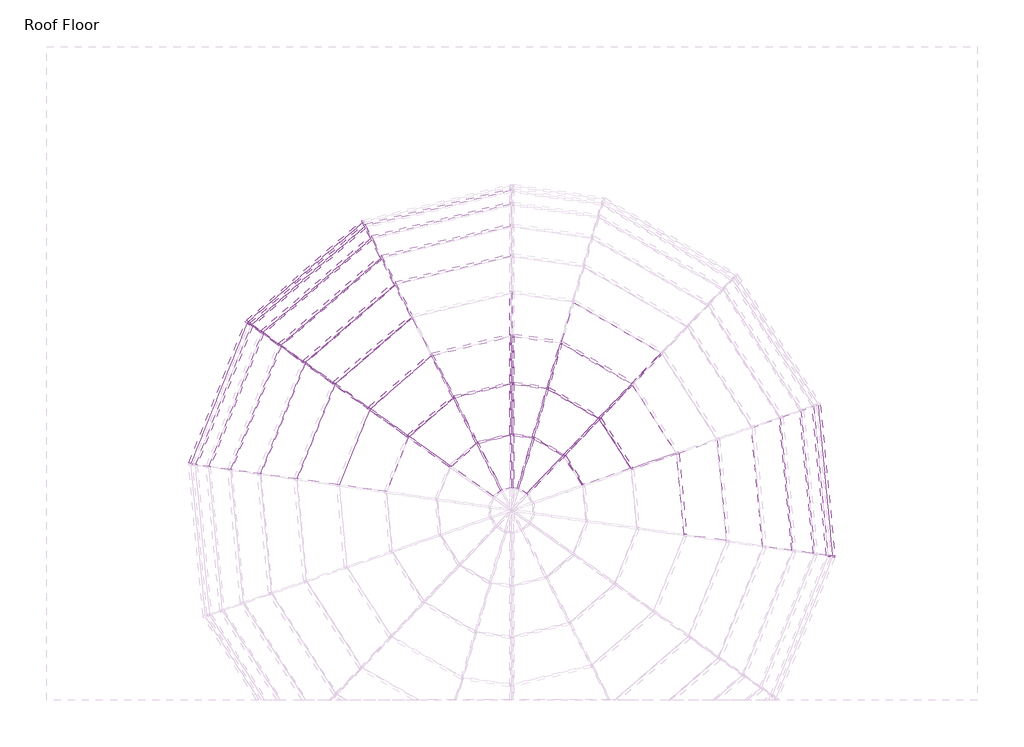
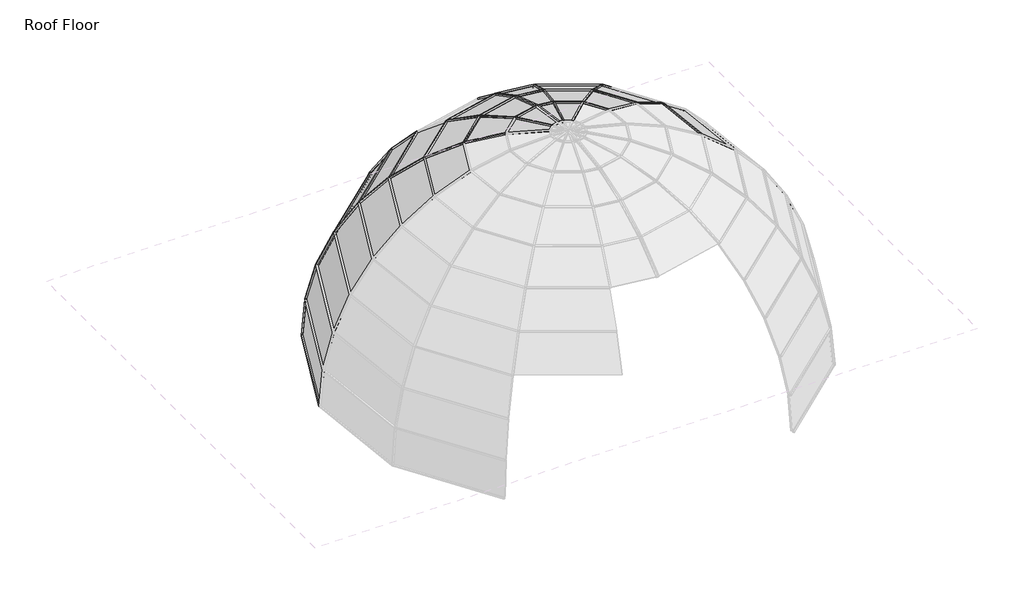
# One storey, part 4 of 5: 57 members, 33 plates.
"""IFC4 building model written with IfcOpenShell, lengths in millimetres."""

from ifc_helpers import new_model, si_unit, origin, place, context, project, spatial, transform, mapped, element, save
from components import member_e5884c93, member_68b33a8a, member_1644e863, member_ecfbb555, member_824fc51d, member_3542fcca, member_54749c12, member_24c90e2e, member_355504b0, member_dee8aa16, member_df6d12cb, member_6952dcc5, member_4046197d, member_16c772f1, member_ac46e98e, member_b6a9e346, member_16816f3b, member_d3833f24, member_95e271e4, member_7f7bd10d, member_27f65fe7, member_b6c57be0, member_ac816b31, member_27e61d6b, member_8ccf5568, member_a4aff84e, member_5ef621be, member_85a1b8f2, system_panel_glazed_e103372f, system_panel_glazed_c16507b5, system_panel_glazed_afa622ac, system_panel_glazed_079f8796, system_panel_glazed_c9cd471f, system_panel_glazed_44273b71, system_panel_glazed_99547904, system_panel_glazed_224b1453, system_panel_glazed_86a28251, system_panel_glazed_afbe5211, system_panel_glazed_17e44092, system_panel_glazed_03693a4c, system_panel_glazed_4e9ddf93, system_panel_glazed_1d538f7b, system_panel_glazed_1c764c03

model = new_model("IFC4")

# Units and contexts
model_context = context("Model", 3, world=origin())
ifc_project = project(units=[si_unit("LENGTHUNIT", "METRE", prefix="MILLI")], contexts=[model_context])

# Site, building, storey
site = spatial("IfcSite", under=ifc_project)
building = spatial("IfcBuilding", under=site)
storey = spatial("IfcBuildingStorey", under=building, Name="Roof Floor", Elevation=15240.0)

# Members
placement = place(None, origin())
member_shape = member_e5884c93(model_context)
element("IfcMember", 1, ObjectType="Rectangular Mullion : 1\" Square", at=placement, inside=storey, context=model_context, shape_type="MappedRepresentation", body=[
    mapped(member_shape, transform((-5386.0704997, 1405.930168, 21117.9670279), x_axis=(0.41239046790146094, -0.47609224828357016, 0.7767047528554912), y_axis=(-0.508530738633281, 0.5870832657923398, 0.6298648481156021), z_axis=(-0.7558641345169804, -0.6547285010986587, 0.0))),
])
member_2_shape = member_68b33a8a(model_context)
element("IfcMember", 2, ObjectType="Rectangular Mullion : 1\" Square", at=placement, inside=storey, context=model_context, shape_type="MappedRepresentation", body=[
    mapped(member_2_shape, transform((-4103.8308858, 2508.907042, 21117.9670279), x_axis=(0.1484605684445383, -0.6121186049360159, 0.7767047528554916), y_axis=(-0.18307106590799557, 0.7548213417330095, 0.6298648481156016), z_axis=(-0.9718253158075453, -0.2357022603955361, 0.0))),
])
member_3_shape = member_1644e863(model_context)
element("IfcMember", 3, ObjectType="Rectangular Mullion : 1\" Square", at=placement, inside=storey, context=model_context, shape_type="MappedRepresentation", body=[
    mapped(member_3_shape, transform((-5728.2554226, 1649.7192684, 20482.2624164), x_axis=(0.3211685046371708, -0.3707792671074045, 0.8714204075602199), y_axis=(-0.5705437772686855, 0.6586754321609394, 0.49053692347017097), z_axis=(-0.7558641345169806, -0.6547285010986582, 0.0))),
])
member_4_shape = member_ecfbb555(model_context)
element("IfcMember", 4, ObjectType="Rectangular Mullion : 1\" Square", at=placement, inside=storey, context=model_context, shape_type="MappedRepresentation", body=[
    mapped(member_4_shape, transform((-5979.6973099, 1828.8586383, 19785.6060711), x_axis=(0.2199875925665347, -0.253968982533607, 0.9418626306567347), y_axis=(-0.616664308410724, 0.7119201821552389, 0.33599819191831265), z_axis=(-0.7558641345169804, -0.6547285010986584, 0.0))),
])
member_5_shape = member_824fc51d(model_context)
element("IfcMember", 5, ObjectType="Rectangular Mullion : 1\" Square", at=placement, inside=storey, context=model_context, shape_type="MappedRepresentation", body=[
    mapped(member_5_shape, transform((-4437.7459666, 3156.7974646, 19785.6060711), x_axis=(0.07919553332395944, -0.3265315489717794, 0.9418626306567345), y_axis=(-0.2219991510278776, 0.9153259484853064, 0.33599819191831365), z_axis=(-0.9718253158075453, -0.23570226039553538, 0.0))),
])
member_6_shape = member_3542fcca(model_context)
element("IfcMember", 6, ObjectType="Rectangular Mullion : 1\" Square", at=placement, inside=storey, context=model_context, shape_type="MappedRepresentation", body=[
    mapped(member_6_shape, transform((-6133.4116648, 1938.3721843, 19047.3495572), x_axis=(0.11180378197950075, -0.12907406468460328, 0.9853120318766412), y_axis=(-0.6451118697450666, 0.744762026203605, 0.17076357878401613), z_axis=(-0.7558641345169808, -0.6547285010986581, 0.0))),
])
member_7_shape = member_54749c12(model_context)
element("IfcMember", 7, ObjectType="Rectangular Mullion : 1\" Square", at=placement, inside=storey, context=model_context, shape_type="MappedRepresentation", body=[
    mapped(member_7_shape, transform((-4296.309905, 2882.3711957, 20482.2624164), x_axis=(0.11562066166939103, -0.47671620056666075, 0.8714204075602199), y_axis=(-0.2053957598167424, 0.8468684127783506, 0.49053692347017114), z_axis=(-0.9718253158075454, -0.23570226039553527, 0.0))),
])
member_8_shape = member_24c90e2e(model_context)
element("IfcMember", 8, ObjectType="Rectangular Mullion : 1\" Square", at=placement, inside=storey, context=model_context, shape_type="MappedRepresentation", body=[
    mapped(member_8_shape, transform((-4524.2102912, 3324.5628967, 19047.3495572), x_axis=(0.04024936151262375, -0.1659523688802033, 0.9853120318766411), y_axis=(-0.23224027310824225, 0.9575511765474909, 0.17076357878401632), z_axis=(-0.9718253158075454, -0.23570226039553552, 0.0))),
])
member_9_shape = member_355504b0(model_context)
element("IfcMember", 9, ObjectType="Rectangular Mullion : 1\" Square", at=placement, inside=storey, context=model_context, shape_type="MappedRepresentation", body=[
    mapped(member_9_shape, transform((-2445.9654175, 379.0161469, 22733.3596998), x_axis=(-0.1387867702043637, -0.9628912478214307, 0.2314706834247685), y_axis=(0.033021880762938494, 0.22910310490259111, 0.9728418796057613), z_axis=(-0.9897715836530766, 0.1426611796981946, 0.0))),
])
member_10_shape = member_dee8aa16(model_context)
element("IfcMember", 10, ObjectType="Rectangular Mullion : 1\" Square", at=placement, inside=storey, context=model_context, shape_type="MappedRepresentation", body=[
    mapped(member_10_shape, transform((-1726.3579262, 76.2970849, 22733.3596998), x_axis=(-0.8194718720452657, -0.5260350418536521, 0.2274928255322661), y_axis=(0.19144367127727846, 0.1228914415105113, 0.9737797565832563), z_axis=(-0.5401991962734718, 0.8415371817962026, 0.0))),
])
element("IfcMember", 11, ObjectType="Rectangular Mullion : 1\" Square", at=placement, inside=storey, context=model_context, shape_type="MappedRepresentation", body=[
    mapped(member_10_shape, transform((-2158.3270023, 332.7848877, 22733.3596998), x_axis=(-0.48743077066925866, -0.8430054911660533, 0.2274928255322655), y_axis=(0.11387277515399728, 0.19694155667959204, 0.9737797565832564), z_axis=(-0.8657044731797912, 0.500555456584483, 0.0))),
])
member_11_shape = member_df6d12cb(model_context)
element("IfcMember", 12, ObjectType="Rectangular Mullion : 1\" Square", at=placement, inside=storey, context=model_context, shape_type="MappedRepresentation", body=[
    mapped(member_11_shape, transform((-2948.3253368, 266.8969575, 22733.3596998), x_axis=(0.22952208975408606, -0.9463438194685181, 0.22749282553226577), y_axis=(-0.05362057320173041, 0.22108328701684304, 0.9737797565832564), z_axis=(-0.9718253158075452, -0.2357022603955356, 0.0))),
])
member_12_shape = member_6952dcc5(model_context)
element("IfcMember", 13, ObjectType="Rectangular Mullion : 1\" Square", at=placement, inside=storey, context=model_context, shape_type="MappedRepresentation", body=[
    mapped(member_12_shape, transform((-6199.4516694, 1955.1139154, 18288.0), x_axis=(-0.07519001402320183, 0.030126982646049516, -0.9967140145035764), y_axis=(-0.9252092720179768, 0.3707109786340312, 0.0810010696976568), z_axis=(0.37193314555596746, 0.9282595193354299, 0.0))),
])
element("IfcMember", 14, ObjectType="Rectangular Mullion : 1\" Square", at=placement, inside=storey, context=model_context, shape_type="MappedRepresentation", body=[
    mapped(member_12_shape, transform((-4575.242748, 3369.6988705, 18288.0), x_axis=(-0.053033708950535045, 0.061225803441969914, -0.9967140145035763), y_axis=(-0.6525770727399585, 0.7533803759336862, 0.08100106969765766), z_axis=(0.7558641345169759, 0.6547285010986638, 0.0))),
])
element("IfcMember", 15, ObjectType="Rectangular Mullion : 1\" Square", at=placement, inside=storey, context=model_context, shape_type="MappedRepresentation", body=[
    mapped(member_12_shape, transform((2052.9280142, -1325.590006, 18288.0), x_axis=(0.08063742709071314, 0.007666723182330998, -0.9967140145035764), y_axis=(0.9922394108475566, 0.09433863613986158, 0.08100106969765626), z_axis=(0.09464965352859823, -0.9955106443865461, 0.0))),
])
member_13_shape = member_4046197d(model_context)
element("IfcMember", 16, ObjectType="Rectangular Mullion : 1\" Square", at=placement, inside=storey, context=model_context, shape_type="MappedRepresentation", body=[
    mapped(member_13_shape, transform((-2445.9654175, 1102.490377, 22494.1337848), x_axis=(-0.1314506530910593, -0.9119938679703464, 0.3885716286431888), y_axis=(0.055434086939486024, 0.3845971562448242, 0.9214185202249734), z_axis=(-0.9897715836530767, 0.14266117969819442, 0.0))),
])
member_14_shape = member_16c772f1(model_context)
element("IfcMember", 17, ObjectType="Rectangular Mullion : 1\" Square", at=placement, inside=storey, context=model_context, shape_type="MappedRepresentation", body=[
    mapped(member_14_shape, transform((-3921.0652112, 362.1894964, 22494.1337848), x_axis=(0.6049222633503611, -0.6983643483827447, 0.38256540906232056), y_axis=(-0.2504764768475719, 0.2891674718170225, 0.9239284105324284), z_axis=(-0.7558641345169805, -0.6547285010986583, 0.0))),
])
element("IfcMember", 18, ObjectType="Rectangular Mullion : 1\" Square", at=placement, inside=storey, context=model_context, shape_type="MappedRepresentation", body=[
    mapped(member_14_shape, transform((-1226.7982715, 599.6087636, 22494.1337848), x_axis=(-0.7775201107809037, -0.4991053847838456, 0.38256540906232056), y_axis=(0.32194301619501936, 0.20666152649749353, 0.9239284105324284), z_axis=(-0.5401991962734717, 0.8415371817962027, 0.0))),
])
element("IfcMember", 19, ObjectType="Rectangular Mullion : 1\" Square", at=placement, inside=storey, context=model_context, shape_type="MappedRepresentation", body=[
    mapped(member_14_shape, transform((-1954.0150122, 1026.8105158, 22494.1337848), x_axis=(-0.4624774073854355, -0.7998489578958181, 0.3825654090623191), y_axis=(0.19149520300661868, 0.3311885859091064, 0.9239284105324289), z_axis=(-0.8657044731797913, 0.500555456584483, 0.0))),
])
member_15_shape = member_ac46e98e(model_context)
element("IfcMember", 20, ObjectType="Rectangular Mullion : 1\" Square", at=placement, inside=storey, context=model_context, shape_type="MappedRepresentation", body=[
    mapped(member_15_shape, transform((-3279.7654111, 909.9851621, 22494.1337848), x_axis=(0.21777201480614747, -0.8978970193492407, 0.38256540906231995), y_axis=(-0.09017153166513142, 0.37178674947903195, 0.9239284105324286), z_axis=(-0.9718253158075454, -0.23570226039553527, 0.0))),
])
member_16_shape = member_b6a9e346(model_context)
element("IfcMember", 21, ObjectType="Rectangular Mullion : 1\" Square", at=placement, inside=storey, context=model_context, shape_type="MappedRepresentation", body=[
    mapped(member_16_shape, transform((-2445.9654175, 1776.1840502, 22138.0708204), x_axis=(-0.1204918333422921, -0.8359624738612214, 0.5353956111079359), y_axis=(0.07638016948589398, 0.5299193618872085, 0.8446014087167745), z_axis=(-0.9897715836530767, 0.14266117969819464, 0.0))),
])
member_17_shape = member_16816f3b(model_context)
element("IfcMember", 22, ObjectType="Rectangular Mullion : 1\" Square", at=placement, inside=storey, context=model_context, shape_type="MappedRepresentation", body=[
    mapped(member_17_shape, transform((-4469.7487023, 753.098171, 22138.0708204), x_axis=(0.5558548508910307, -0.6417175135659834, 0.5284165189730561), y_axis=(-0.3459693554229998, 0.3994110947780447, 0.8489852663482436), z_axis=(-0.7558641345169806, -0.6547285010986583, 0.0))),
])
element("IfcMember", 23, ObjectType="Rectangular Mullion : 1\" Square", at=placement, inside=storey, context=model_context, shape_type="MappedRepresentation", body=[
    mapped(member_17_shape, transform((-139.3504694, 106.7658383, 22138.0708204), x_axis=(-0.8451738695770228, -0.08035616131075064, 0.5284165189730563), y_axis=(0.5260442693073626, 0.05001444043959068, 0.8489852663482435), z_axis=(-0.0946496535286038, 0.9955106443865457, 0.0))),
])
element("IfcMember", 24, ObjectType="Rectangular Mullion : 1\" Square", at=placement, inside=storey, context=model_context, shape_type="MappedRepresentation", body=[
    mapped(member_17_shape, transform((-1763.7612487, 1673.0818758, 22138.0708204), x_axis=(-0.42496420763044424, -0.7349703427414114, 0.528416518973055), y_axis=(0.2645017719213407, 0.4574525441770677, 0.8489852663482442), z_axis=(-0.8657044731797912, 0.500555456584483, 0.0))),
])
member_18_shape = member_d3833f24(model_context)
element("IfcMember", 25, ObjectType="Rectangular Mullion : 1\" Square", at=placement, inside=storey, context=model_context, shape_type="MappedRepresentation", body=[
    mapped(member_18_shape, transform((-3588.3998748, 1508.8239827, 22138.0708204), x_axis=(0.20010774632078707, -0.8250653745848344, 0.5284165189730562), y_axis=(-0.12454896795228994, 0.5135285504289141, 0.8489852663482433), z_axis=(-0.9718253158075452, -0.2357022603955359, 0.0))),
])
member_19_shape = member_95e271e4(model_context)
element("IfcMember", 26, ObjectType="Rectangular Mullion : 1\" Square", at=placement, inside=storey, context=model_context, shape_type="MappedRepresentation", body=[
    mapped(member_19_shape, transform((-4962.6476779, 1104.2632567, 21675.0614442), x_axis=(0.49123616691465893, -0.5671172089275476, 0.6611089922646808), y_axis=(-0.43284689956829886, 0.49970857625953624, 0.7502898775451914), z_axis=(-0.7558641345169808, -0.6547285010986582, 0.0))),
])
member_20_shape = member_7f7bd10d(model_context)
element("IfcMember", 27, ObjectType="Rectangular Mullion : 1\" Square", at=placement, inside=storey, context=model_context, shape_type="MappedRepresentation", body=[
    mapped(member_20_shape, transform((-3600.7420563, 1505.830564, 22138.0708204), x_axis=(-0.8888888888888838, -0.4581228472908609, 0.0), y_axis=(-0.2140690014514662, 0.4153548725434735, 0.8841124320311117), z_axis=(-0.4050321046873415, 0.7858777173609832, -0.46727423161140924))),
])
element("IfcMember", 28, ObjectType="Rectangular Mullion : 1\" Square", at=placement, inside=storey, context=model_context, shape_type="MappedRepresentation", body=[
    mapped(member_20_shape, transform((-3292.1075926, 906.9917434, 22494.1337848), x_axis=(-0.8888888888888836, -0.45812284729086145, 0.0), y_axis=(-0.1438252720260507, 0.2790620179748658, 0.9494412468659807), z_axis=(-0.4349607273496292, 0.8439477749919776, -0.3139447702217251))),
])
element("IfcMember", 29, ObjectType="Rectangular Mullion : 1\" Square", at=placement, inside=storey, context=model_context, shape_type="MappedRepresentation", body=[
    mapped(member_20_shape, transform((-6143.0111393, 1930.0571323, 19047.3495572), x_axis=(-0.5802469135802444, -0.8144406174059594, 0.0), y_axis=(-0.789063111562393, 0.5621667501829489, 0.24768518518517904), z_axis=(-0.20172487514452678, 0.1437185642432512, -0.9688405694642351))),
])
element("IfcMember", 30, ObjectType="Rectangular Mullion : 1\" Square", at=placement, inside=storey, context=model_context, shape_type="MappedRepresentation", body=[
    mapped(member_20_shape, transform((-5989.2967844, 1820.5435863, 19785.6060711), x_axis=(-0.5802469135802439, -0.8144406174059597, 0.0), y_axis=(-0.7446000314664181, 0.5304890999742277, 0.4051568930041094), z_axis=(-0.32997623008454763, 0.23509103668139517, -0.9142471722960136))),
])
element("IfcMember", 31, ObjectType="Rectangular Mullion : 1\" Square", at=placement, inside=storey, context=model_context, shape_type="MappedRepresentation", body=[
    mapped(member_20_shape, transform((-5737.8548971, 1641.4042164, 20482.2624164), x_axis=(-0.5802469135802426, -0.8144406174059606, 0.0), y_axis=(-0.6794536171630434, 0.48407564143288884, 0.5513742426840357), z_axis=(-0.4490615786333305, 0.3199332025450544, -0.8342580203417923))),
])
element("IfcMember", 32, ObjectType="Rectangular Mullion : 1\" Square", at=placement, inside=storey, context=model_context, shape_type="MappedRepresentation", body=[
    mapped(member_20_shape, transform((-5395.6699742, 1397.6151161, 21117.9670279), x_axis=(-0.5802469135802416, -0.8144406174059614, 0.0), y_axis=(-0.5954334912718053, 0.4242156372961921, 0.6822756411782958), z_axis=(-0.5556729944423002, 0.3958883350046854, -0.731095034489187))),
])
element("IfcMember", 33, ObjectType="Rectangular Mullion : 1\" Square", at=placement, inside=storey, context=model_context, shape_type="MappedRepresentation", body=[
    mapped(member_20_shape, transform((-4972.2471524, 1095.9482048, 21675.0614442), x_axis=(-0.5802469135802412, -0.8144406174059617, 0.0), y_axis=(-0.49487354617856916, 0.35257186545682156, 0.7942249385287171), z_axis=(-0.6468490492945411, 0.4608465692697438, -0.6076238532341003))),
])
element("IfcMember", 34, ObjectType="Rectangular Mullion : 1\" Square", at=placement, inside=storey, context=model_context, shape_type="MappedRepresentation", body=[
    mapped(member_20_shape, transform((-4479.3481768, 744.783119, 22138.0708204), x_axis=(-0.5802469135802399, -0.8144406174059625, 0.0), y_axis=(-0.38056711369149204, 0.2711344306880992, 0.8841124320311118), z_axis=(-0.7200570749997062, 0.5130035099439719, -0.467274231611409))),
])
element("IfcMember", 35, ObjectType="Rectangular Mullion : 1\" Square", at=placement, inside=storey, context=model_context, shape_type="MappedRepresentation", body=[
    mapped(member_20_shape, transform((-4536.5524727, 3321.569478, 19047.3495572), x_axis=(-0.8888888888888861, -0.4581228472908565, 0.0), y_axis=(-0.44384800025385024, 0.8611916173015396, 0.24768518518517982), z_axis=(-0.11347024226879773, 0.22016460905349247, -0.9688405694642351))),
])
element("IfcMember", 36, ObjectType="Rectangular Mullion : 1\" Square", at=placement, inside=storey, context=model_context, shape_type="MappedRepresentation", body=[
    mapped(member_20_shape, transform((-4450.0881481, 3153.8040459, 19785.6060711), x_axis=(-0.8888888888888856, -0.4581228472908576, 0.0), y_axis=(-0.41883751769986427, 0.8126641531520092, 0.40515689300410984), z_axis=(-0.18561162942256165, 0.3601394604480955, -0.9142471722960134))),
])
element("IfcMember", 37, ObjectType="Rectangular Mullion : 1\" Square", at=placement, inside=storey, context=model_context, shape_type="MappedRepresentation", body=[
    mapped(member_20_shape, transform((-4308.6520865, 2879.377777, 20482.2624164), x_axis=(-0.8888888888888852, -0.4581228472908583, 0.0), y_axis=(-0.3821926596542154, 0.7415626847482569, 0.5513742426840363), z_axis=(-0.252597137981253, 0.4901104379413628, -0.8342580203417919))),
])
element("IfcMember", 38, ObjectType="Rectangular Mullion : 1\" Square", at=placement, inside=storey, context=model_context, shape_type="MappedRepresentation", body=[
    mapped(member_20_shape, transform((-4116.1730673, 2505.9136233, 21117.9670279), x_axis=(-0.8888888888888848, -0.4581228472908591, 0.0), y_axis=(-0.33493133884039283, 0.6498622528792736, 0.6822756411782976), z_axis=(-0.3125660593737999, 0.6064672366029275, -0.7310950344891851))),
])
element("IfcMember", 39, ObjectType="Rectangular Mullion : 1\" Square", at=placement, inside=storey, context=model_context, shape_type="MappedRepresentation", body=[
    mapped(member_20_shape, transform((-3930.6646857, 353.8744444, 22494.1337848), x_axis=(-0.5802469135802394, -0.814440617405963, 0.0), y_axis=(-0.255689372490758, 0.18216548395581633, 0.9494412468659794), z_axis=(-0.7732635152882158, 0.5509103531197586, -0.31394477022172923))),
])
element("IfcMember", 40, ObjectType="Rectangular Mullion : 1\" Square", at=placement, inside=storey, context=model_context, shape_type="MappedRepresentation", body=[
    mapped(member_20_shape, transform((-140.55252, 119.4088235, 22138.0708204), x_axis=(-0.32662703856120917, 0.9451533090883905, 0.0), y_axis=(0.44164578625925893, 0.15262439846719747, 0.8841124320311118), z_axis=(0.8356217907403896, 0.28877502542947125, -0.4672742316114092))),
])
element("IfcMember", 41, ObjectType="Rectangular Mullion : 1\" Square", at=placement, inside=storey, context=model_context, shape_type="MappedRepresentation", body=[
    mapped(member_20_shape, transform((-350.5818969, 1535.3598953, 21675.0614442), x_axis=(-0.7233314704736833, 0.6905009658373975, 0.0), y_axis=(0.41956485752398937, 0.43951345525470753, 0.794224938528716), z_axis=(0.5484130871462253, 0.5744878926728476, -0.6076238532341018))),
])
element("IfcMember", 42, ObjectType="Rectangular Mullion : 1\" Square", at=placement, inside=storey, context=model_context, shape_type="MappedRepresentation", body=[
    mapped(member_20_shape, transform((-768.4726693, 1097.6001211, 22138.0708204), x_axis=(-0.7233314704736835, 0.6905009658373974, 0.0), y_axis=(0.32265330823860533, 0.3379941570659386, 0.8841124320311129), z_axis=(0.6104804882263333, 0.6395063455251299, -0.46727423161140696))),
])
element("IfcMember", 43, ObjectType="Rectangular Mullion : 1\" Square", at=placement, inside=storey, context=model_context, shape_type="MappedRepresentation", body=[
    mapped(member_20_shape, transform((-1233.6588013, 610.2962858, 22494.1337848), x_axis=(-0.7233314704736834, 0.6905009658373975, 0.0), y_axis=(0.21677916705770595, 0.22708613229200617, 0.949441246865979), z_axis=(0.655590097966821, 0.6867607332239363, -0.3139447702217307))),
])
element("IfcMember", 44, ObjectType="Rectangular Mullion : 1\" Square", at=placement, inside=storey, context=model_context, shape_type="MappedRepresentation", body=[
    mapped(member_20_shape, transform((-1774.7556955, 1679.4389301, 22138.0708204), x_axis=(-0.9592955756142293, 0.2824039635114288, 0.0), y_axis=(0.1319600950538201, 0.44825410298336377, 0.8841124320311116), z_axis=(0.2496768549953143, 0.8481251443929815, -0.4672742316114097))),
])
element("IfcMember", 45, ObjectType="Rectangular Mullion : 1\" Square", at=placement, inside=storey, context=model_context, shape_type="MappedRepresentation", body=[
    mapped(member_20_shape, transform((-1965.009459, 1033.1675701, 22494.1337848), x_axis=(-0.9592955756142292, 0.28240396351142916, 0.0), y_axis=(0.08865924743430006, 0.30116582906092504, 0.9494412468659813), z_axis=(0.26812597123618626, 0.9107947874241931, -0.31394477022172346))),
])
member_21_shape = member_27f65fe7(model_context)
element("IfcMember", 46, ObjectType="Rectangular Mullion : 1\" Square", at=placement, inside=storey, context=model_context, shape_type="MappedRepresentation", body=[
    mapped(member_21_shape, transform((-2960.6675183, 263.9035388, 22733.3596998), x_axis=(-0.8888888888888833, -0.458122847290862, 0.0), y_axis=(-0.06958639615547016, 0.13501744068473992, 0.988396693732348), z_axis=(-0.45280710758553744, 0.8785748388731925, -0.15189462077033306))),
])
element("IfcMember", 47, ObjectType="Rectangular Mullion : 1\" Square", at=placement, inside=storey, context=model_context, shape_type="MappedRepresentation", body=[
    mapped(member_21_shape, transform((-1733.2184559, 86.9846071, 22733.3596998), x_axis=(-0.7233314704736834, 0.6905009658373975, 0.0), y_axis=(0.10488338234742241, 0.1098701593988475, 0.9883966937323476), z_axis=(0.6824888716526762, 0.7149384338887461, -0.15189462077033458))),
])
element("IfcMember", 48, ObjectType="Rectangular Mullion : 1\" Square", at=placement, inside=storey, context=model_context, shape_type="MappedRepresentation", body=[
    mapped(member_21_shape, transform((-2169.3214491, 339.141942, 22733.3596998), x_axis=(-0.9592955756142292, 0.28240396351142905, 0.0), y_axis=(0.04289564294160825, 0.1457118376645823, 0.9883966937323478), z_axis=(0.27912714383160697, 0.9481645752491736, -0.1518946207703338))),
])
member_22_shape = member_b6c57be0(model_context)
element("IfcMember", 49, ObjectType="Rectangular Mullion : 1\" Square", at=placement, inside=storey, context=model_context, shape_type="MappedRepresentation", body=[
    mapped(member_22_shape, transform((-2471.1056157, 1779.8076442, 22138.0708204), x_axis=(0.9893147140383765, 0.08858896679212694, 0.11579460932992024), y_axis=(-0.14579573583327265, 0.6011312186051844, 0.7857384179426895), z_axis=(0.0, -0.7942249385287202, 0.6076238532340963))),
])
member_23_shape = member_ac816b31(model_context)
element("IfcMember", 50, ObjectType="Rectangular Mullion : 1\" Square", at=placement, inside=storey, context=model_context, shape_type="MappedRepresentation", body=[
    mapped(member_23_shape, transform((-2471.1056157, 1106.113971, 22494.1337848), x_axis=(0.9936392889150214, 0.052619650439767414, 0.09955971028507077), y_axis=(-0.11260978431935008, 0.46430203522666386, 0.8784888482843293), z_axis=(0.0, -0.8841124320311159, 0.4672742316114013))),
])
member_24_shape = member_27e61d6b(model_context)
element("IfcMember", 51, ObjectType="Rectangular Mullion : 1\" Square", at=placement, inside=storey, context=model_context, shape_type="MappedRepresentation", body=[
    mapped(member_24_shape, transform((-2471.1056157, 382.6397409, 22733.3596998), x_axis=(0.9971136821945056, 0.02383563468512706, 0.07208444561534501), y_axis=(-0.07592301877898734, 0.31303862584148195, 0.9467008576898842), z_axis=(0.0, -0.9494412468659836, 0.31394477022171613))),
])
member_25_shape = member_8ccf5568(model_context)
element("IfcMember", 52, ObjectType="Rectangular Mullion : 1\" Square", at=placement, inside=storey, context=model_context, shape_type="MappedRepresentation", body=[
    mapped(member_25_shape, transform((-4565.6432735, 3378.0139224, 18288.0), x_axis=(-0.8888888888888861, -0.4581228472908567, 0.0), y_axis=(-0.45652937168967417, 0.8857970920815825, 0.08333333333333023), z_axis=(-0.03817690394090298, 0.07407407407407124, -0.9965217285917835))),
])
element("IfcMember", 53, ObjectType="Rectangular Mullion : 1\" Square", at=placement, inside=storey, context=model_context, shape_type="MappedRepresentation", body=[
    mapped(member_25_shape, transform((-6194.7281185, 1966.9028113, 18288.0), x_axis=(-0.5802469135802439, -0.8144406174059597, 0.0), y_axis=(-0.8116077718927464, 0.5782286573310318, 0.08333333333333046), z_axis=(-0.06787005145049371, 0.04835390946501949, -0.9965217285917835))),
])
element("IfcMember", 54, ObjectType="Rectangular Mullion : 1\" Square", at=placement, inside=storey, context=model_context, shape_type="MappedRepresentation", body=[
    mapped(member_25_shape, transform((2054.1300648, -1338.2329912, 18288.0), x_axis=(0.1426611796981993, 0.9897715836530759, 0.0), y_axis=(0.9863288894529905, -0.14216496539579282, 0.08333333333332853), z_axis=(0.08248096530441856, -0.011888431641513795, -0.9965217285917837))),
])
member_26_shape = member_a4aff84e(model_context)
element("IfcMember", 55, ObjectType="Rectangular Mullion : 1\" Square", at=placement, inside=storey, context=model_context, shape_type="MappedRepresentation", body=[
    mapped(member_26_shape, transform((-2471.1056157, 1106.113971, 22494.1337848), x_axis=(-0.9989777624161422, 0.014191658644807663, 0.04291884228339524), y_axis=(0.045204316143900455, 0.3136238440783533, 0.9484706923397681), z_axis=(0.0, 0.9494412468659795, -0.3139447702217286))),
])
member_27_shape = member_5ef621be(model_context)
element("IfcMember", 56, ObjectType="Rectangular Mullion : 1\" Square", at=placement, inside=storey, context=model_context, shape_type="MappedRepresentation", body=[
    mapped(member_27_shape, transform((-2471.1056157, 382.6397409, 22733.3596998), x_axis=(-0.9997604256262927, 0.003324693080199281, 0.02163418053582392), y_axis=(0.021888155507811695, 0.15185823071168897, 0.9881598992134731), z_axis=(0.0, 0.9883966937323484, -0.15189462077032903))),
])
member_28_shape = member_85a1b8f2(model_context)
element("IfcMember", 57, ObjectType="Rectangular Mullion : 1\" Square", at=placement, inside=storey, context=model_context, shape_type="MappedRepresentation", body=[
    mapped(member_28_shape, transform((-2471.1056157, 1779.8076442, 22138.0708204), x_axis=(-0.9977396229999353, 0.031400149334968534, 0.05941107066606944), y_axis=(0.06719854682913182, 0.46621801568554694, 0.88211400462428), z_axis=(0.0, 0.8841124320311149, -0.4672742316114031))),
])

# Plates
system_panel_glazed_shape = system_panel_glazed_e103372f(model_context)
element("IfcPlate", 58, ObjectType="System Panel : Glazed", at=placement, inside=storey, context=model_context, shape_type="MappedRepresentation", body=[
    mapped(system_panel_glazed_shape, transform((1950.0844985, -265.634859, 18313.316536), x_axis=(-0.09464965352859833, 0.9955106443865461, 0.0), y_axis=(-0.9922394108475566, -0.09433863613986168, -0.08100106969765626), z_axis=(-0.08063742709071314, -0.007666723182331, 0.9967140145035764))),
])
element("IfcPlate", 59, ObjectType="System Panel : Glazed", at=placement, inside=storey, context=model_context, shape_type="MappedRepresentation", body=[
    mapped(system_panel_glazed_shape, transform((-5378.8386398, 2670.9032315, 18313.316536), x_axis=(-0.7558641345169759, -0.6547285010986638, 0.0), y_axis=(0.6525770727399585, -0.7533803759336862, -0.08100106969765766), z_axis=(0.053033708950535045, -0.06122580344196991, 0.9967140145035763))),
])
element("IfcPlate", 60, ObjectType="System Panel : Glazed", at=placement, inside=storey, context=model_context, shape_type="MappedRepresentation", body=[
    mapped(system_panel_glazed_shape, transform((-6593.624881, 965.8165983, 18313.316536), x_axis=(-0.3719331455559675, -0.9282595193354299, 0.0), y_axis=(0.9252092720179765, -0.37071097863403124, -0.0810010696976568), z_axis=(0.07519001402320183, -0.030126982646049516, 0.9967140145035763))),
])
system_panel_glazed_2_shape = system_panel_glazed_c16507b5(model_context)
element("IfcPlate", 61, ObjectType="System Panel : Glazed", at=placement, inside=storey, context=model_context, shape_type="MappedRepresentation", body=[
    mapped(system_panel_glazed_2_shape, transform((1887.6503728, -271.5708762, 19059.674854), x_axis=(-0.09464965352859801, 0.9955106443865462, 0.0), y_axis=(-0.9661389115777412, -0.0918570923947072, -0.24111797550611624), z_axis=(-0.240035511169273, -0.02282173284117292, 0.9704958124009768))),
])
element("IfcPlate", 62, ObjectType="System Panel : Glazed", at=placement, inside=storey, context=model_context, shape_type="MappedRepresentation", body=[
    mapped(system_panel_glazed_2_shape, transform((-5337.7768975, 2623.4986993, 19059.674854), x_axis=(-0.7558641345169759, -0.6547285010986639, 0.0), y_axis=(0.6354112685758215, -0.7335629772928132, -0.24111797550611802), z_axis=(0.15786681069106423, -0.18225242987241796, 0.9704958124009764))),
])
element("IfcPlate", 63, ObjectType="System Panel : Glazed", at=placement, inside=storey, context=model_context, shape_type="MappedRepresentation", body=[
    mapped(system_panel_glazed_2_shape, transform((-6535.4084552, 942.4905587, 19059.674854), x_axis=(-0.37193314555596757, -0.9282595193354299, 0.0), y_axis=(0.9008719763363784, -0.360959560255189, -0.24111797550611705), z_axis=(0.22382005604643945, -0.08967976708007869, 0.9704958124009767))),
])
system_panel_glazed_3_shape = system_panel_glazed_afa622ac(model_context)
element("IfcPlate", 64, ObjectType="System Panel : Glazed", at=placement, inside=storey, context=model_context, shape_type="MappedRepresentation", body=[
    mapped(system_panel_glazed_3_shape, transform((1703.1027978, -289.1170111, 19797.2703184), x_axis=(-0.094649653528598, 0.9955106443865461, 0.0), y_axis=(-0.9143214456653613, -0.08693046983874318, -0.39554947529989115), z_axis=(-0.3937737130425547, -0.03743862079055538, 0.9184446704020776))),
])
element("IfcPlate", 65, ObjectType="System Panel : Glazed", at=placement, inside=storey, context=model_context, shape_type="MappedRepresentation", body=[
    mapped(system_panel_glazed_3_shape, transform((-5216.4034518, 2483.376749, 19797.2703184), x_axis=(-0.7558641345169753, -0.6547285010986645, 0.0), y_axis=(0.6013319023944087, -0.6942193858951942, -0.3955494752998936), z_axis=(0.25897751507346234, -0.2989816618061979, 0.9184446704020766))),
])
element("IfcPlate", 66, ObjectType="System Panel : Glazed", at=placement, inside=storey, context=model_context, shape_type="MappedRepresentation", body=[
    mapped(system_panel_glazed_3_shape, transform((-6363.3278811, 873.5416625, 19797.2703184), x_axis=(-0.37193314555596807, -0.9282595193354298, 0.0), y_axis=(0.85255500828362, -0.34160001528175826, -0.3955494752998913), z_axis=(0.3671725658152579, -0.1471179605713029, 0.9184446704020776))),
])
system_panel_glazed_4_shape = system_panel_glazed_079f8796(model_context)
element("IfcPlate", 67, ObjectType="System Panel : Glazed", at=placement, inside=storey, context=model_context, shape_type="MappedRepresentation", body=[
    mapped(system_panel_glazed_4_shape, transform((1402.5869203, -317.6890046, 20492.9481164), x_axis=(-0.09464965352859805, 0.9955106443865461, 0.0), y_axis=(-0.8376163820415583, -0.07963762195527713, -0.5404226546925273), z_axis=(-0.5379965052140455, -0.0511508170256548, 0.8413936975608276))),
])
element("IfcPlate", 68, ObjectType="System Panel : Glazed", at=placement, inside=storey, context=model_context, shape_type="MappedRepresentation", body=[
    mapped(system_panel_glazed_4_shape, transform((-5018.7598493, 2255.2032232, 20492.9481164), x_axis=(-0.7558641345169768, -0.6547285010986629, 0.0), y_axis=(0.5508844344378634, -0.6359793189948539, -0.540422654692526), z_axis=(0.35383011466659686, -0.408486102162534, 0.8413936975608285))),
])
element("IfcPlate", 69, ObjectType="System Panel : Glazed", at=placement, inside=storey, context=model_context, shape_type="MappedRepresentation", body=[
    mapped(system_panel_glazed_4_shape, transform((-6083.1131736, 761.2658006, 20492.9481164), x_axis=(-0.37193314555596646, -0.9282595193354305, 0.0), y_axis=(0.7810317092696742, -0.31294220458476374, -0.5404226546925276), z_axis=(0.5016524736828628, -0.20100109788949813, 0.8413936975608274))),
])
system_panel_glazed_5_shape = system_panel_glazed_c9cd471f(model_context)
element("IfcPlate", 70, ObjectType="System Panel : Glazed", at=placement, inside=storey, context=model_context, shape_type="MappedRepresentation", body=[
    mapped(system_panel_glazed_5_shape, transform((-4750.3354993, 1945.3154778, 21127.3743739), x_axis=(-0.7558641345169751, -0.6547285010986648, 0.0), y_axis=(0.48498090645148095, -0.5598957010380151, -0.6717963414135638), z_axis=(0.43984421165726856, -0.5077867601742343, 0.7407359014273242))),
])
element("IfcPlate", 71, ObjectType="System Panel : Glazed", at=placement, inside=storey, context=model_context, shape_type="MappedRepresentation", body=[
    mapped(system_panel_glazed_5_shape, transform((-5702.5470951, 608.7813544, 21127.3743739), x_axis=(-0.37193314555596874, -0.9282595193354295, 0.0), y_axis=(0.6875951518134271, -0.27550423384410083, -0.6717963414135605), z_axis=(0.6236013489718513, -0.24986332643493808, 0.7407359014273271))),
])
system_panel_glazed_6_shape = system_panel_glazed_44273b71(model_context)
element("IfcPlate", 72, ObjectType="System Panel : Glazed", at=placement, inside=storey, context=model_context, shape_type="MappedRepresentation", body=[
    mapped(system_panel_glazed_6_shape, transform((490.0308265, -404.451631, 21682.9171425), x_axis=(-0.09464965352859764, 0.9955106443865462, 0.0), y_axis=(-0.6157819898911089, -0.058546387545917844, -0.7857384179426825), z_axis=(-0.782210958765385, -0.0743698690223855, 0.6185589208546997))),
])
element("IfcPlate", 73, ObjectType="System Panel : Glazed", at=placement, inside=storey, context=model_context, shape_type="MappedRepresentation", body=[
    mapped(system_panel_glazed_6_shape, transform((-982.2084229, 1889.0432084, 21682.9171425), x_axis=(-0.8657044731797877, 0.500555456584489, 0.0), y_axis=(-0.3096230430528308, -0.5354892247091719, -0.7857384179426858), z_axis=(-0.39330565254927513, -0.6802172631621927, 0.6185589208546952))),
])
element("IfcPlate", 74, ObjectType="System Panel : Glazed", at=placement, inside=storey, context=model_context, shape_type="MappedRepresentation", body=[
    mapped(system_panel_glazed_6_shape, transform((-4418.5889855, 1562.324221, 21682.9171425), x_axis=(-0.755864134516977, -0.6547285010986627, 0.0), y_axis=(0.4049881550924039, -0.46754650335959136, -0.7857384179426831), z_axis=(0.5144453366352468, -0.5939114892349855, 0.6185589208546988))),
])
element("IfcPlate", 75, ObjectType="System Panel : Glazed", at=placement, inside=storey, context=model_context, shape_type="MappedRepresentation", body=[
    mapped(system_panel_glazed_6_shape, transform((-5232.20426, 420.3253392, 21682.9171425), x_axis=(-0.37193314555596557, -0.9282595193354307, 0.0), y_axis=(0.574183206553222, -0.23006256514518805, -0.7857384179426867), z_axis=(0.7293691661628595, -0.29224216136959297, 0.6185589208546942))),
])
system_panel_glazed_7_shape = system_panel_glazed_99547904(model_context)
element("IfcPlate", 76, ObjectType="System Panel : Glazed", at=placement, inside=storey, context=model_context, shape_type="MappedRepresentation", body=[
    mapped(system_panel_glazed_7_shape, transform((-3039.6037606, 1630.4463302, 22144.1384086), x_axis=(-0.9718253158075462, -0.23570226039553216, 0.0), y_axis=(0.11260978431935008, -0.46430203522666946, -0.8784888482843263), z_axis=(0.2070618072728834, -0.8537377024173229, 0.47776285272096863))),
])
system_panel_glazed_8_shape = system_panel_glazed_224b1453(model_context)
element("IfcPlate", 77, ObjectType="System Panel : Glazed", at=placement, inside=storey, context=model_context, shape_type="MappedRepresentation", body=[
    mapped(system_panel_glazed_8_shape, transform((-463.9014637, 602.4775734, 22144.1384086), x_axis=(-0.5401991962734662, 0.8415371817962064, 0.0), y_axis=(-0.4020552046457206, -0.25808710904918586, -0.8784888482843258), z_axis=(-0.7392810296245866, -0.4745589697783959, 0.47776285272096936))),
])
element("IfcPlate", 78, ObjectType="System Panel : Glazed", at=placement, inside=storey, context=model_context, shape_type="MappedRepresentation", body=[
    mapped(system_panel_glazed_8_shape, transform((-1277.1987837, 1378.8610267, 22144.1384086), x_axis=(-0.8657044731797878, 0.500555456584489, 0.0), y_axis=(-0.2391468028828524, -0.413601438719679, -0.8784888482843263), z_axis=(-0.43973238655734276, -0.760511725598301, 0.4777628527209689))),
])
element("IfcPlate", 79, ObjectType="System Panel : Glazed", at=placement, inside=storey, context=model_context, shape_type="MappedRepresentation", body=[
    mapped(system_panel_glazed_8_shape, transform((-4032.7404362, 1116.8738102, 22144.1384086), x_axis=(-0.7558641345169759, -0.6547285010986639, 0.0), y_axis=(0.3128049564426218, -0.3611238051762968, -0.8784888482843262), z_axis=(0.5751716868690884, -0.6640182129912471, 0.4777628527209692))),
])
element("IfcPlate", 80, ObjectType="System Panel : Glazed", at=placement, inside=storey, context=model_context, shape_type="MappedRepresentation", body=[
    mapped(system_panel_glazed_8_shape, transform((-4685.1567612, 201.1354545, 22144.1384086), x_axis=(-0.37193314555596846, -0.9282595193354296, 0.0), y_axis=(0.44348791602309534, -0.17769584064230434, -0.8784888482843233), z_axis=(0.8154656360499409, -0.3267391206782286, 0.47776285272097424))),
])
system_panel_glazed_9_shape = system_panel_glazed_86a28251(model_context)
element("IfcPlate", 81, ObjectType="System Panel : Glazed", at=placement, inside=storey, context=model_context, shape_type="MappedRepresentation", body=[
    mapped(system_panel_glazed_9_shape, transform((-2118.1932205, 1717.6218353, 22144.0529771), x_axis=(-0.9897715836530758, 0.14266117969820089, 0.0), y_axis=(-0.06719854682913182, -0.466218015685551, -0.8821140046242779), z_axis=(-0.12584342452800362, -0.8730913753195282, 0.47103596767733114))),
])
system_panel_glazed_10_shape = system_panel_glazed_afbe5211(model_context)
element("IfcPlate", 82, ObjectType="System Panel : Glazed", at=placement, inside=storey, context=model_context, shape_type="MappedRepresentation", body=[
    mapped(system_panel_glazed_10_shape, transform((-2885.104404, 993.3328473, 22498.2246338), x_axis=(-0.9718253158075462, -0.23570226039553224, 0.0), y_axis=(0.07592301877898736, -0.31303862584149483, -0.94670085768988), z_axis=(0.22313953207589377, -0.9200278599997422, 0.32211408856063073))),
])
system_panel_glazed_11_shape = system_panel_glazed_17e44092(model_context)
element("IfcPlate", 83, ObjectType="System Panel : Glazed", at=placement, inside=storey, context=model_context, shape_type="MappedRepresentation", body=[
    mapped(system_panel_glazed_11_shape, transform((-1015.5954494, 248.3344005, 22498.2246338), x_axis=(-0.540199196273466, 0.8415371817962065, 0.0), y_axis=(-0.2710709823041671, -0.174005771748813, -0.9467008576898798), z_axis=(-0.796683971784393, -0.511407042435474, 0.32211408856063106))),
])
element("IfcPlate", 84, ObjectType="System Panel : Glazed", at=placement, inside=storey, context=model_context, shape_type="MappedRepresentation", body=[
    mapped(system_panel_glazed_11_shape, transform((-1605.3523589, 811.3234757, 22498.2246338), x_axis=(-0.865704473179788, 0.5005554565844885, 0.0), y_axis=(-0.1612359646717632, -0.2788556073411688, -0.9467008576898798), z_axis=(-0.4738762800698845, -0.8195631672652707, 0.32211408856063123))),
])
element("IfcPlate", 85, ObjectType="System Panel : Glazed", at=placement, inside=storey, context=model_context, shape_type="MappedRepresentation", body=[
    mapped(system_panel_glazed_11_shape, transform((-3603.5142723, 621.3452631, 22498.2246338), x_axis=(-0.7558641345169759, -0.6547285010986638, 0.0), y_axis=(0.2108972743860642, -0.243474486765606, -0.9467008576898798), z_axis=(0.6198320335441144, -0.7155772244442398, 0.3221140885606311))),
])
system_panel_glazed_12_shape = system_panel_glazed_03693a4c(model_context)
element("IfcPlate", 86, ObjectType="System Panel : Glazed", at=placement, inside=storey, context=model_context, shape_type="MappedRepresentation", body=[
    mapped(system_panel_glazed_12_shape, transform((-2213.4324649, 1056.8040754, 22498.1579687), x_axis=(-0.9897715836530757, 0.14266117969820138, 0.0), y_axis=(-0.04520431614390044, -0.31362384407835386, -0.948470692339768), z_axis=(-0.13530994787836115, -0.9387693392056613, 0.3168648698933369))),
])
system_panel_glazed_13_shape = system_panel_glazed_4e9ddf93(model_context)
element("IfcPlate", 87, ObjectType="System Panel : Glazed", at=placement, inside=storey, context=model_context, shape_type="MappedRepresentation", body=[
    mapped(system_panel_glazed_13_shape, transform((-2719.2755829, 309.5418809, 22735.3433422), x_axis=(-0.971825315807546, -0.2357022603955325, 0.0), y_axis=(0.0368148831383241, -0.15179165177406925, -0.987726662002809), z_axis=(0.2328094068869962, -0.9598977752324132, 0.15619232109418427))),
])
system_panel_glazed_14_shape = system_panel_glazed_1d538f7b(model_context)
element("IfcPlate", 88, ObjectType="System Panel : Glazed", at=placement, inside=storey, context=model_context, shape_type="MappedRepresentation", body=[
    mapped(system_panel_glazed_14_shape, transform((-1957.5489845, 202.2037663, 22735.3433422), x_axis=(-0.8657044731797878, 0.500555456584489, 0.0), y_axis=(-0.07818291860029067, -0.1352163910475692, -0.987726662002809), z_axis=(-0.4944119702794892, -0.8550793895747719, 0.15619232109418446))),
])
element("IfcPlate", 89, ObjectType="System Panel : Glazed", at=placement, inside=storey, context=model_context, shape_type="MappedRepresentation", body=[
    mapped(system_panel_glazed_14_shape, transform((-3142.8397042, 89.5104902, 22735.3433422), x_axis=(-0.7558641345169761, -0.6547285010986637, 0.0), y_axis=(0.10226356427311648, -0.1180601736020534, -0.9877266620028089), z_axis=(0.6466927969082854, -0.746587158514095, 0.15619232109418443))),
])
system_panel_glazed_15_shape = system_panel_glazed_1c764c03(model_context)
element("IfcPlate", 90, ObjectType="System Panel : Glazed", at=placement, inside=storey, context=model_context, shape_type="MappedRepresentation", body=[
    mapped(system_panel_glazed_15_shape, transform((-2315.6553988, 347.5545327, 22735.3082297), x_axis=(-0.9897715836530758, 0.142661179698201, 0.0), y_axis=(-0.021888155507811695, -0.15185823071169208, -0.9881598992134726), z_axis=(-0.1409720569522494, -0.9780525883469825, 0.15342755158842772))),
])

save(model, "model.ifc")
